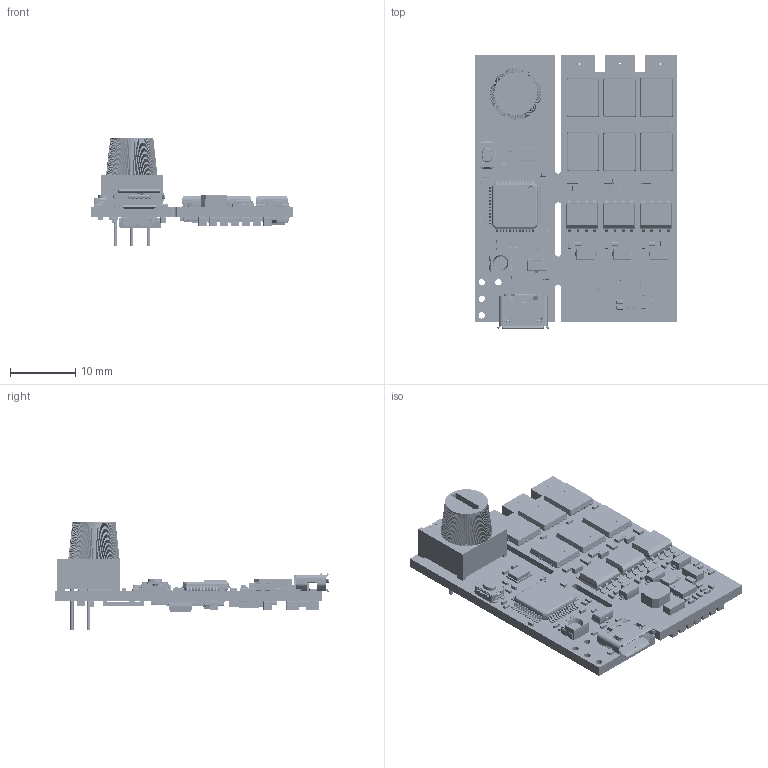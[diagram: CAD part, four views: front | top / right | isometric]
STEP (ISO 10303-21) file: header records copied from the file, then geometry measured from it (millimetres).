
FILE_DESCRIPTION(('Open CASCADE Model'),'2;1');
FILE_NAME('Open CASCADE Shape Model','2021-02-18T15:39:39',('Author'),( 'Open CASCADE'),'Open CASCADE STEP processor 6.8','Open CASCADE 6.8' ,'Unknown');
FILE_SCHEMA(('AUTOMOTIVE_DESIGN { 1 0 10303 214 1 1 1 1 }'));
Length unit declared in the file: millimetre
Products named in the file (250): PCB; Board; Open CASCADE STEP translator 6.8 1.1.1; C34; CAPC2012X140; C30; C37; C38; C27; C29; C33; C39; C28; C36; C35; C32; C31; C40; D2; SBTW-3528; cover; housing; base; U9; SON50P300X300X100-11; Q2; PowerFLAT_5x6; Q3; Q4; Q5; Q6; Q7; U7; SON7P95_300X300X100L40X34T23-1; R24; RESC1608X50; R23; L1; INDC1005X55; R2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
Assembly tree (410 placements, depth 4):
  PCB
    Board
      Open CASCADE STEP translator 6.8 1.1.1
    C34
      CAPC2012X140
    C30
      CAPC2012X140
    C37
      CAPC2012X140
    C38
      CAPC2012X140
    C27
      CAPC2012X140
    C29
      CAPC2012X140
    C33
      CAPC2012X140
    C39
      CAPC2012X140
    C28
      CAPC2012X140
    C36
      CAPC2012X140
    C35
      CAPC2012X140
    C32
      CAPC2012X140
    C31
      CAPC2012X140
    C40
      CAPC2012X140
    D2
      SBTW-3528
        cover
        housing
        base  x2
    U9
      SON50P300X300X100-11
    Q2
      PowerFLAT_5x6
    Q3
      PowerFLAT_5x6
    Q4
      PowerFLAT_5x6
    Q5
      PowerFLAT_5x6
    Q6
      PowerFLAT_5x6
    Q7
      PowerFLAT_5x6
    U7
      SON7P95_300X300X100L40X34T23-1
    R24
      RESC1608X50
    R23
      RESC1608X50
    L1
      INDC1005X55
    R2
      3386-T
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Bounding box: 31 x 42.05 x 16.48 mm (x, y, z)
Volume: 3246.9 mm3; surface area: 8548.7 mm2
Topology: 742 solids, 745 shells, 18362 faces, 45599 edges, 27698 vertices
Faces by surface type: plane 11749, cylinder 5226, sphere 1220, bspline 121, cone 21, torus 21, revolution 4
Full cylindrical faces by diameter (mm): 0.254 x3, 0.6 x2, 0.8 x4, 0.991 x4
Entity records: 227022 total; most frequent: CARTESIAN_POINT 40076, ORIENTED_EDGE 34686, DIRECTION 32880, EDGE_CURVE 17345, LINE 14234, VECTOR 14234, VERTEX_POINT 11114, AXIS2_PLACEMENT_3D 9321
